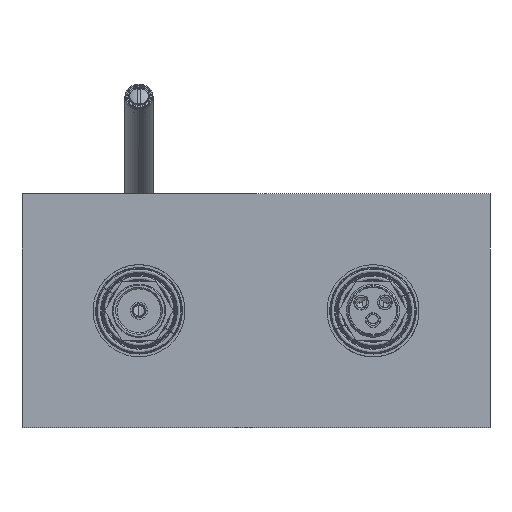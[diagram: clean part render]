
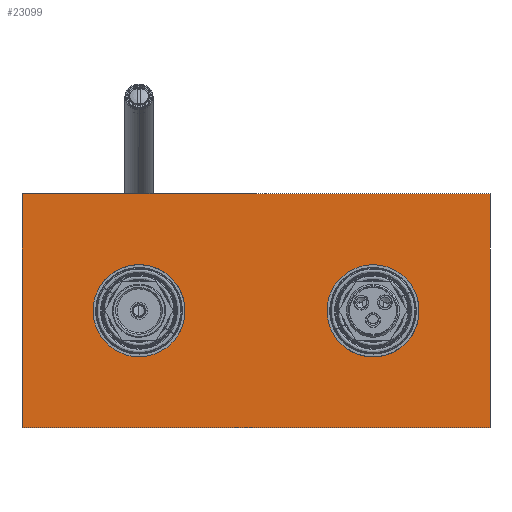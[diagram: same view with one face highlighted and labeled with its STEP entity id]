
A CAD part, front view. The second image highlights one B-rep face of the part: STEP entity #23099.
In plain terms, the highlighted planar face has unit normal (0, -1, 0).
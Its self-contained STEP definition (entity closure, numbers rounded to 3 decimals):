
#318 = FACE_BOUND ( 'NONE', #37575, .T. ) ;
#635 = VERTEX_POINT ( 'NONE', #21123 ) ;
#838 = VERTEX_POINT ( 'NONE', #22778 ) ;
#2495 = DIRECTION ( 'NONE',  ( 0., 1., 0. ) ) ;
#2940 = VERTEX_POINT ( 'NONE', #19835 ) ;
#3007 = VERTEX_POINT ( 'NONE', #46889 ) ;
#3037 = VERTEX_POINT ( 'NONE', #13368 ) ;
#3689 = EDGE_LOOP ( 'NONE', ( #30563, #11964, #28293, #10039 ) ) ;
#4147 = EDGE_LOOP ( 'NONE', ( #11238, #33699 ) ) ;
#4776 = LINE ( 'NONE', #19631, #7670 ) ;
#6429 = EDGE_CURVE ( 'NONE', #17479, #635, #30691, .T. ) ;
#7670 = VECTOR ( 'NONE', #37338, 1000. ) ;
#7945 = DIRECTION ( 'NONE',  ( 0., 1., 0. ) ) ;
#8317 = DIRECTION ( 'NONE',  ( -1., 0., 0. ) ) ;
#9908 = VERTEX_POINT ( 'NONE', #38528 ) ;
#10039 = ORIENTED_EDGE ( 'NONE', *, *, #6429, .T. ) ;
#11238 = ORIENTED_EDGE ( 'NONE', *, *, #18611, .T. ) ;
#11964 = ORIENTED_EDGE ( 'NONE', *, *, #43236, .F. ) ;
#12262 = VERTEX_POINT ( 'NONE', #26531 ) ;
#13368 = CARTESIAN_POINT ( 'NONE',  ( 54.03, -13.907, 75. ) ) ;
#14708 = AXIS2_PLACEMENT_3D ( 'NONE', #19253, #30285, #23089 ) ;
#15142 = PLANE ( 'NONE',  #28478 ) ;
#15296 = CARTESIAN_POINT ( 'NONE',  ( -188.47, -13.907, 150. ) ) ;
#16177 = AXIS2_PLACEMENT_3D ( 'NONE', #28482, #43115, #45762 ) ;
#17479 = VERTEX_POINT ( 'NONE', #45649 ) ;
#18611 = EDGE_CURVE ( 'NONE', #838, #12262, #22303, .T. ) ;
#18819 = EDGE_CURVE ( 'NONE', #17479, #2940, #18910, .T. ) ;
#18910 = LINE ( 'NONE', #15296, #20026 ) ;
#19253 = CARTESIAN_POINT ( 'NONE',  ( 36.53, -13.907, 75. ) ) ;
#19631 = CARTESIAN_POINT ( 'NONE',  ( -188.47, -13.907, 0. ) ) ;
#19835 = CARTESIAN_POINT ( 'NONE',  ( 111.53, -13.907, 150. ) ) ;
#20026 = VECTOR ( 'NONE', #30868, 1000. ) ;
#21123 = CARTESIAN_POINT ( 'NONE',  ( -188.47, -13.907, 0. ) ) ;
#22303 = CIRCLE ( 'NONE', #16177, 17.5 ) ;
#22587 = CARTESIAN_POINT ( 'NONE',  ( -188.47, -13.907, 150. ) ) ;
#22748 = EDGE_CURVE ( 'NONE', #3007, #3037, #46100, .T. ) ;
#22778 = CARTESIAN_POINT ( 'NONE',  ( -130.97, -13.907, 75. ) ) ;
#23089 = DIRECTION ( 'NONE',  ( -1., 0., 0. ) ) ;
#23099 = ADVANCED_FACE ( 'NONE', ( #318, #36926, #36674 ), #15142, .F. ) ;
#25410 = EDGE_CURVE ( 'NONE', #12262, #838, #46135, .T. ) ;
#26201 = VECTOR ( 'NONE', #46324, 1000. ) ;
#26531 = CARTESIAN_POINT ( 'NONE',  ( -95.97, -13.907, 75. ) ) ;
#26547 = DIRECTION ( 'NONE',  ( 0., 1., 0. ) ) ;
#26969 = ORIENTED_EDGE ( 'NONE', *, *, #22748, .T. ) ;
#27032 = VECTOR ( 'NONE', #44610, 1000. ) ;
#28293 = ORIENTED_EDGE ( 'NONE', *, *, #18819, .F. ) ;
#28478 = AXIS2_PLACEMENT_3D ( 'NONE', #22587, #7945, #29522 ) ;
#28482 = CARTESIAN_POINT ( 'NONE',  ( -113.47, -13.907, 75. ) ) ;
#29522 = DIRECTION ( 'NONE',  ( 0., 0., 1. ) ) ;
#29708 = ORIENTED_EDGE ( 'NONE', *, *, #32226, .T. ) ;
#30285 = DIRECTION ( 'NONE',  ( 0., 1., 0. ) ) ;
#30563 = ORIENTED_EDGE ( 'NONE', *, *, #40857, .T. ) ;
#30691 = LINE ( 'NONE', #38121, #27032 ) ;
#30868 = DIRECTION ( 'NONE',  ( 1., 0., 0. ) ) ;
#31022 = LINE ( 'NONE', #35284, #26201 ) ;
#31251 = CARTESIAN_POINT ( 'NONE',  ( 36.53, -13.907, 75. ) ) ;
#31593 = AXIS2_PLACEMENT_3D ( 'NONE', #44982, #26547, #8317 ) ;
#32226 = EDGE_CURVE ( 'NONE', #3037, #3007, #43044, .T. ) ;
#33699 = ORIENTED_EDGE ( 'NONE', *, *, #25410, .T. ) ;
#35284 = CARTESIAN_POINT ( 'NONE',  ( 111.53, -13.907, 150. ) ) ;
#36674 = FACE_OUTER_BOUND ( 'NONE', #3689, .T. ) ;
#36926 = FACE_BOUND ( 'NONE', #4147, .T. ) ;
#37338 = DIRECTION ( 'NONE',  ( 1., 0., 0. ) ) ;
#37575 = EDGE_LOOP ( 'NONE', ( #26969, #29708 ) ) ;
#38121 = CARTESIAN_POINT ( 'NONE',  ( -188.47, -13.907, 150. ) ) ;
#38528 = CARTESIAN_POINT ( 'NONE',  ( 111.53, -13.907, 0. ) ) ;
#40717 = AXIS2_PLACEMENT_3D ( 'NONE', #31251, #2495, #41578 ) ;
#40857 = EDGE_CURVE ( 'NONE', #635, #9908, #4776, .T. ) ;
#41578 = DIRECTION ( 'NONE',  ( -1., 0., 0. ) ) ;
#43044 = CIRCLE ( 'NONE', #40717, 17.5 ) ;
#43115 = DIRECTION ( 'NONE',  ( 0., 1., 0. ) ) ;
#43236 = EDGE_CURVE ( 'NONE', #2940, #9908, #31022, .T. ) ;
#44610 = DIRECTION ( 'NONE',  ( 0., 0., -1. ) ) ;
#44982 = CARTESIAN_POINT ( 'NONE',  ( -113.47, -13.907, 75. ) ) ;
#45649 = CARTESIAN_POINT ( 'NONE',  ( -188.47, -13.907, 150. ) ) ;
#45762 = DIRECTION ( 'NONE',  ( -1., 0., 0. ) ) ;
#46100 = CIRCLE ( 'NONE', #14708, 17.5 ) ;
#46135 = CIRCLE ( 'NONE', #31593, 17.5 ) ;
#46324 = DIRECTION ( 'NONE',  ( 0., 0., -1. ) ) ;
#46889 = CARTESIAN_POINT ( 'NONE',  ( 19.03, -13.907, 75. ) ) ;
